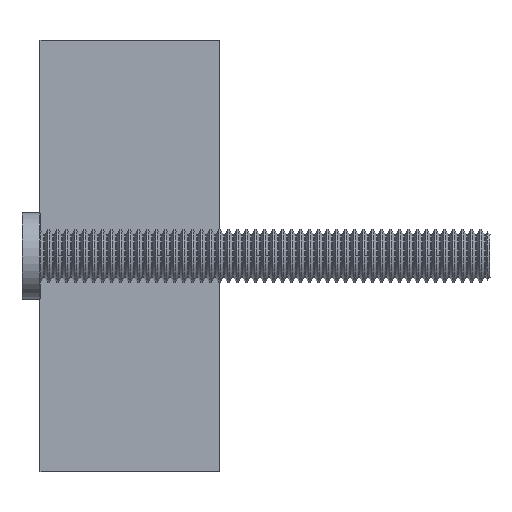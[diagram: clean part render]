
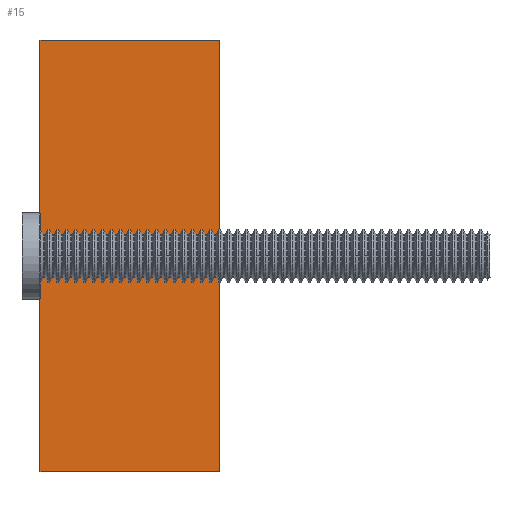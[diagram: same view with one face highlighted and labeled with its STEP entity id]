
A CAD part, left-side view. The second image highlights one B-rep face of the part: STEP entity #15.
In plain terms, the highlighted planar face has unit normal (-1, 0, 0).
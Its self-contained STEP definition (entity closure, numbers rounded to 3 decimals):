
#15=ADVANCED_FACE('',(#428),#6164,.T.);
#428=FACE_OUTER_BOUND('',#841,.T.);
#841=EDGE_LOOP('',(#1255,#1256,#1257,#1258,#1259,#1260));
#1255=ORIENTED_EDGE('',*,*,#3014,.T.);
#1256=ORIENTED_EDGE('',*,*,#3003,.T.);
#1257=ORIENTED_EDGE('',*,*,#3004,.T.);
#1258=ORIENTED_EDGE('',*,*,#3005,.T.);
#1259=ORIENTED_EDGE('',*,*,#3007,.T.);
#1260=ORIENTED_EDGE('',*,*,#3010,.T.);
#3003=EDGE_CURVE('',#5300,#5301,#4974,.T.);
#3004=EDGE_CURVE('',#5301,#5302,#4975,.T.);
#3005=EDGE_CURVE('',#5302,#5303,#4976,.T.);
#3007=EDGE_CURVE('',#5303,#5304,#4978,.T.);
#3010=EDGE_CURVE('',#5304,#5299,#4981,.T.);
#3014=EDGE_CURVE('',#5299,#5300,#4985,.T.);
#4974=B_SPLINE_CURVE_WITH_KNOTS('',1,(#13231,#13232),.UNSPECIFIED.,.F.,
 .F.,(2,2),(0.,9.6),.UNSPECIFIED.);
#4975=B_SPLINE_CURVE_WITH_KNOTS('',1,(#13233,#13234),.UNSPECIFIED.,.F.,
 .F.,(2,2),(0.,19.2),.UNSPECIFIED.);
#4976=B_SPLINE_CURVE_WITH_KNOTS('',1,(#13235,#13236),.UNSPECIFIED.,.F.,
 .F.,(2,2),(0.,20.),.UNSPECIFIED.);
#4978=B_SPLINE_CURVE_WITH_KNOTS('',1,(#13239,#13240),.UNSPECIFIED.,.F.,
 .F.,(2,2),(-48.,0.),.UNSPECIFIED.);
#4981=B_SPLINE_CURVE_WITH_KNOTS('',1,(#13245,#13246),.UNSPECIFIED.,.F.,
 .F.,(2,2),(-20.,0.),.UNSPECIFIED.);
#4985=B_SPLINE_CURVE_WITH_KNOTS('',1,(#13253,#13254),.UNSPECIFIED.,.F.,
 .F.,(2,2),(-19.2,0.),.UNSPECIFIED.);
#5299=VERTEX_POINT('',#12767);
#5300=VERTEX_POINT('',#12768);
#5301=VERTEX_POINT('',#12769);
#5302=VERTEX_POINT('',#12770);
#5303=VERTEX_POINT('',#12771);
#5304=VERTEX_POINT('',#12772);
#6164=PLANE('',#6264);
#6264=AXIS2_PLACEMENT_3D('',#8136,#6926,$);
#6926=DIRECTION('',(-1.,0.,0.));
#8136=CARTESIAN_POINT('',(10.241,26.012,-28.812));
#12767=CARTESIAN_POINT('',(10.241,24.,24.));
#12768=CARTESIAN_POINT('',(10.241,24.,4.8));
#12769=CARTESIAN_POINT('',(10.241,24.,-4.8));
#12770=CARTESIAN_POINT('',(10.241,24.,-24.));
#12771=CARTESIAN_POINT('',(10.241,4.,-24.));
#12772=CARTESIAN_POINT('',(10.241,4.,24.));
#13231=CARTESIAN_POINT('',(10.241,24.,4.8));
#13232=CARTESIAN_POINT('',(10.241,24.,-4.8));
#13233=CARTESIAN_POINT('',(10.241,24.,-4.8));
#13234=CARTESIAN_POINT('',(10.241,24.,-24.));
#13235=CARTESIAN_POINT('',(10.241,24.,-24.));
#13236=CARTESIAN_POINT('',(10.241,4.,-24.));
#13239=CARTESIAN_POINT('',(10.241,4.,-24.));
#13240=CARTESIAN_POINT('',(10.241,4.,24.));
#13245=CARTESIAN_POINT('',(10.241,4.,24.));
#13246=CARTESIAN_POINT('',(10.241,24.,24.));
#13253=CARTESIAN_POINT('',(10.241,24.,24.));
#13254=CARTESIAN_POINT('',(10.241,24.,4.8));
